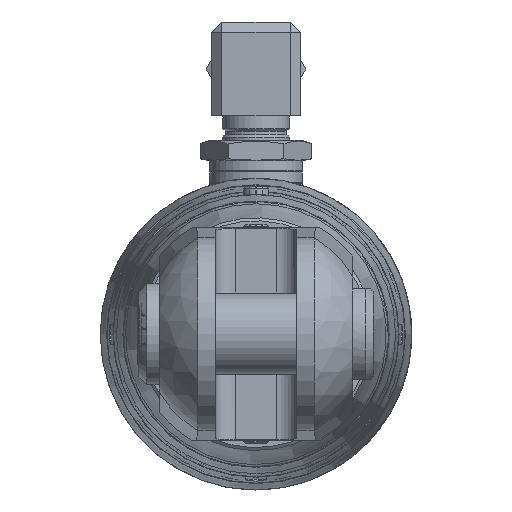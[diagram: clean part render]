
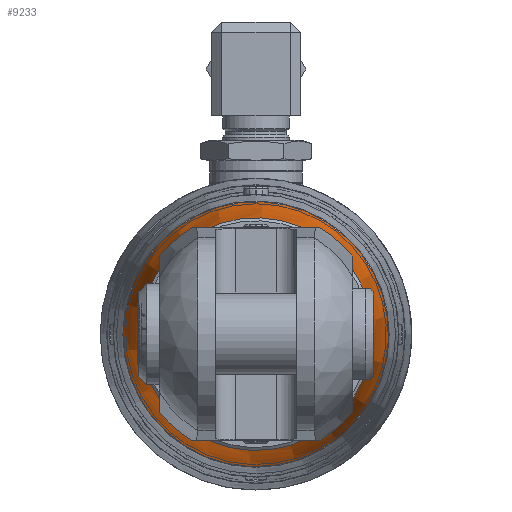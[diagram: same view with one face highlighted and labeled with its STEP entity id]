
A CAD part, left-side view. The second image highlights one B-rep face of the part: STEP entity #9233.
In plain terms, the highlighted conical face has half-angle 10 degrees and reference radius 24.512 mm.
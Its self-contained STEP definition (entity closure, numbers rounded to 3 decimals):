
#377=CONICAL_SURFACE('',#10087,24.512,0.175);
#881=CIRCLE('',#10085,26.101);
#882=CIRCLE('',#10086,26.101);
#883=CIRCLE('',#10088,22.924);
#884=CIRCLE('',#10089,22.924);
#1869=FACE_OUTER_BOUND('',#2418,.T.);
#2418=EDGE_LOOP('',(#7712,#7713,#7714,#7715,#7716,#7717));
#2977=LINE('',#16254,#3564);
#3564=VECTOR('',#12112,24.512);
#4348=VERTEX_POINT('',#16244);
#4349=VERTEX_POINT('',#16245);
#4350=VERTEX_POINT('',#16250);
#4351=VERTEX_POINT('',#16251);
#5517=EDGE_CURVE('',#4348,#4349,#881,.T.);
#5518=EDGE_CURVE('',#4349,#4348,#882,.T.);
#5520=EDGE_CURVE('',#4350,#4351,#883,.T.);
#5521=EDGE_CURVE('',#4351,#4350,#884,.T.);
#5522=EDGE_CURVE('',#4351,#4349,#2977,.T.);
#7712=ORIENTED_EDGE('',*,*,#5520,.F.);
#7713=ORIENTED_EDGE('',*,*,#5521,.F.);
#7714=ORIENTED_EDGE('',*,*,#5522,.T.);
#7715=ORIENTED_EDGE('',*,*,#5517,.F.);
#7716=ORIENTED_EDGE('',*,*,#5518,.F.);
#7717=ORIENTED_EDGE('',*,*,#5522,.F.);
#9233=ADVANCED_FACE('',(#1869),#377,.T.);
#10085=AXIS2_PLACEMENT_3D('',#16246,#12101,#12102);
#10086=AXIS2_PLACEMENT_3D('',#16247,#12103,#12104);
#10087=AXIS2_PLACEMENT_3D('',#16249,#12106,#12107);
#10088=AXIS2_PLACEMENT_3D('',#16252,#12108,#12109);
#10089=AXIS2_PLACEMENT_3D('',#16253,#12110,#12111);
#12101=DIRECTION('center_axis',(1.,0.,0.));
#12102=DIRECTION('ref_axis',(0.,0.605,0.796));
#12103=DIRECTION('center_axis',(1.,0.,0.));
#12104=DIRECTION('ref_axis',(0.,0.605,0.796));
#12106=DIRECTION('center_axis',(1.,0.,0.));
#12107=DIRECTION('ref_axis',(0.,-0.605,-0.796));
#12108=DIRECTION('center_axis',(-1.,0.,0.));
#12109=DIRECTION('ref_axis',(0.,0.605,0.796));
#12110=DIRECTION('center_axis',(-1.,0.,0.));
#12111=DIRECTION('ref_axis',(0.,0.605,0.796));
#12112=DIRECTION('',(0.985,0.105,0.138));
#16244=CARTESIAN_POINT('',(-932.242,-15.8,-20.775));
#16245=CARTESIAN_POINT('',(-932.242,15.8,20.775));
#16246=CARTESIAN_POINT('Origin',(-932.242,0.,
0.));
#16247=CARTESIAN_POINT('Origin',(-932.242,0.,
0.));
#16249=CARTESIAN_POINT('Origin',(-941.25,0.,0.));
#16250=CARTESIAN_POINT('',(-950.258,-13.877,-18.247));
#16251=CARTESIAN_POINT('',(-950.258,13.877,18.247));
#16252=CARTESIAN_POINT('Origin',(-950.258,0.,
0.));
#16253=CARTESIAN_POINT('Origin',(-950.258,0.,
0.));
#16254=CARTESIAN_POINT('',(-941.25,14.839,19.511));
